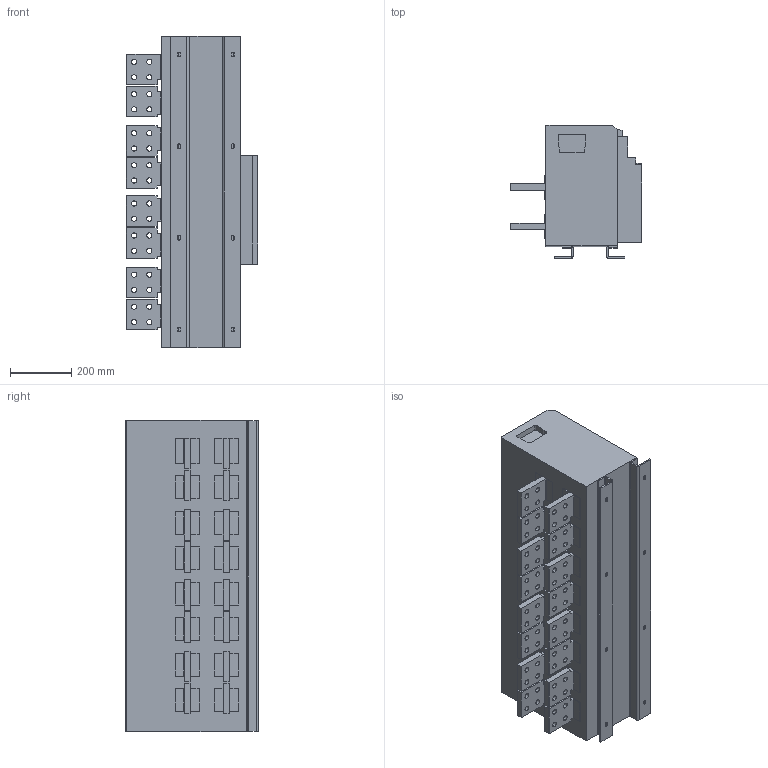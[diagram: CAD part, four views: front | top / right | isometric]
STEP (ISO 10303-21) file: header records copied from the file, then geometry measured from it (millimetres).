
FILE_DESCRIPTION (( 'STEP AP203' ), '1' );
FILE_NAME ('BWA-6300V-Fixed-4P-4000~6300A.STEP', '2024-11-08T05:10:07', ( '' ), ( '' ), 'SwSTEP 2.0', 'SolidWorks 2017', '' );
FILE_SCHEMA (( 'CONFIG_CONTROL_DESIGN' ));
Length unit declared in the file: millimetre
Products named in the file (1): BWA-6300V-Fixed-4P-4000~6300A
Bounding box: 429 x 435 x 1019 mm (x, y, z)
Volume: 106759838.2 mm3; surface area: 2589818.3 mm2
Topology: 2 solids, 2 shells, 1043 faces, 2880 edges, 1919 vertices
Faces by surface type: plane 583, cylinder 259, bspline 201
Entity records: 44205 total; most frequent: CARTESIAN_POINT 18064, ORIENTED_EDGE 5760, DIRECTION 4682, EDGE_CURVE 2880, LINE 1960, VECTOR 1960, VERTEX_POINT 1919, AXIS2_PLACEMENT_3D 1361
